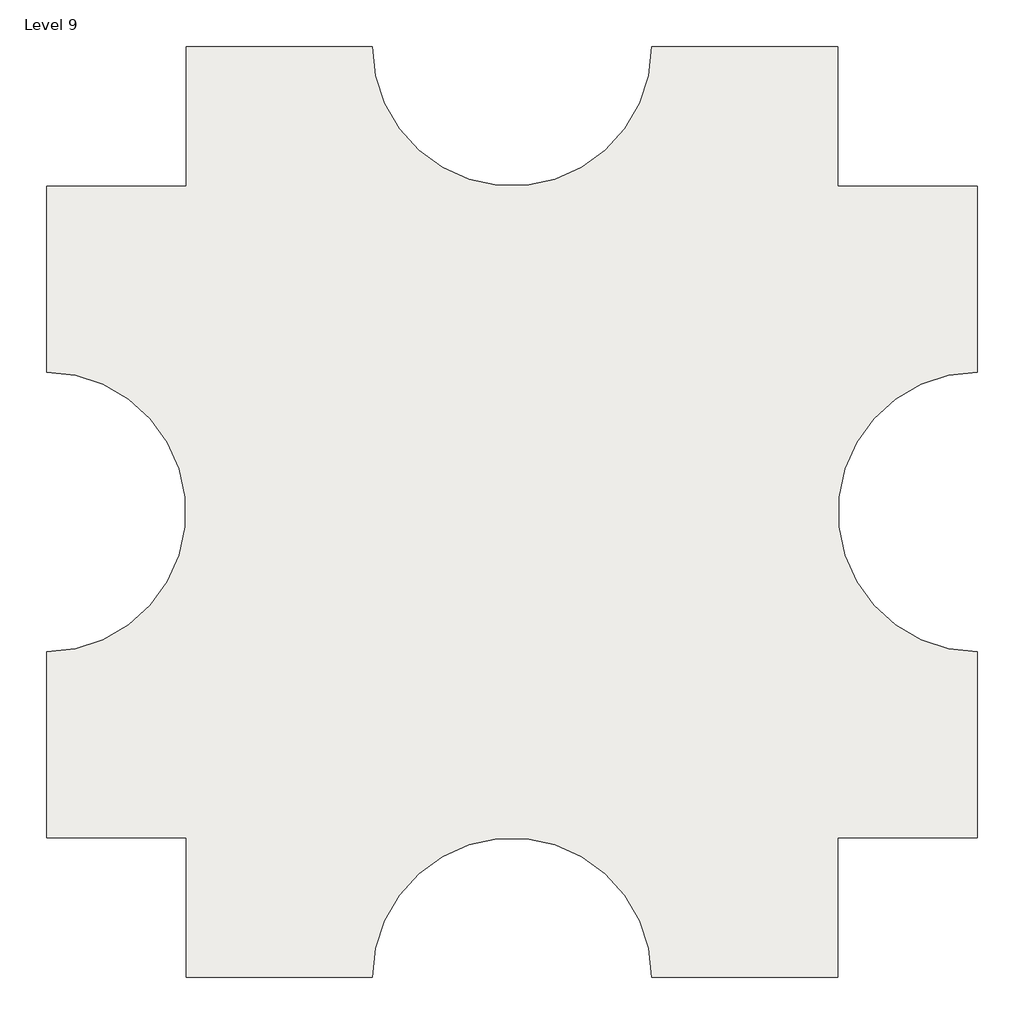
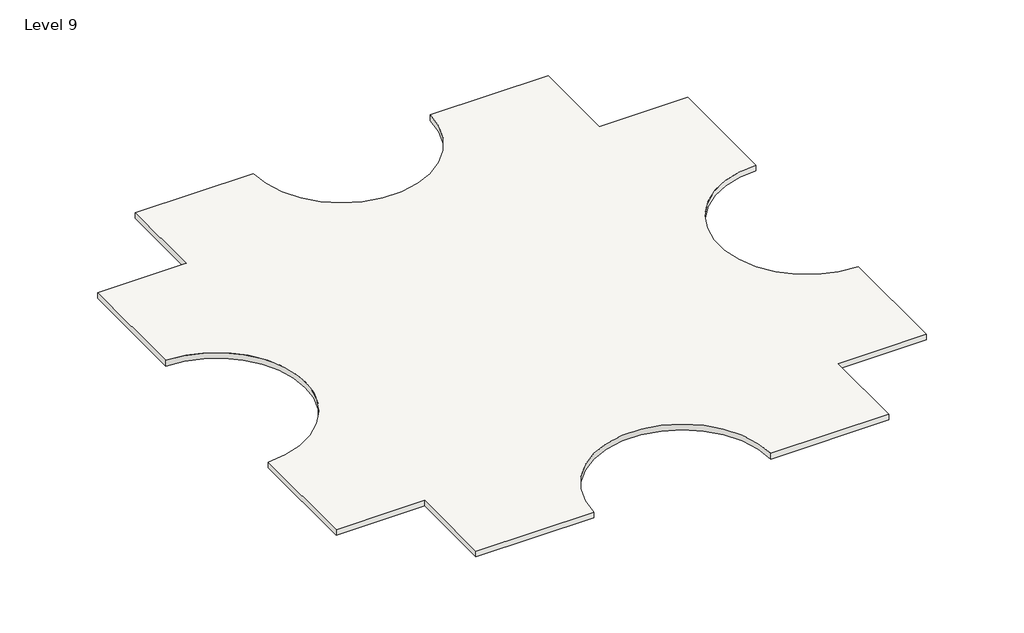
# One storey: 1 slab.
"""IFC4 building model written with IfcOpenShell, lengths in millimetres."""

import ifcopenshell
import ifcopenshell.guid

model = None  # the IFC model being written
_history = None  # IfcOwnerHistory: only IFC2X3 demands one
_inside = {}  # id of a spatial element -> (the spatial element, [elements in it])
_under = {}  # id of a project, library or spatial element -> (it, [spatial elements below it])
_declared = {}  # id of a project -> (the project, [libraries it declares])
_typed = {}  # id of a type object -> (the type object, [elements of that type])
_made_of = {}  # id of a material, layer set ... -> (it, [elements and type objects made of it])


def new_model(schema):
    """Start an empty IFC model of exactly this schema.

    Asked for "IFC4X3", IfcOpenShell would pick the latest addendum, in which some entities
    have other attributes; the version numbers below select the first issue.
    IFC2X3 requires an IfcOwnerHistory on every rooted entity: one is made here for all.
    """
    global model, _history
    if schema == "IFC4X3":
        model = ifcopenshell.file(schema_version=(4, 3, 0, 0))
    else:
        model = ifcopenshell.file(schema=schema)
    _inside.clear()
    _under.clear()
    _declared.clear()
    _typed.clear()
    _made_of.clear()
    _history = None
    if model.schema == "IFC2X3":
        org = make("IfcOrganization", Name="unknown")
        user = make(
            "IfcPersonAndOrganization",
            ThePerson=make("IfcPerson", FamilyName="unknown"),
            TheOrganization=org,
        )
        app = make(
            "IfcApplication",
            ApplicationDeveloper=org,
            Version="unknown",
            ApplicationFullName="unknown",
            ApplicationIdentifier="unknown",
        )
        _history = make(
            "IfcOwnerHistory",
            OwningUser=user,
            OwningApplication=app,
            ChangeAction="ADDED",
            CreationDate=0,
        )
    return model


def make(cls, **values):
    """One entity of the class cls with the attributes given. An attribute that is None is left unset."""
    return model.create_entity(
        cls, **{name: value for name, value in values.items() if value is not None}
    )


def rooted(cls, **values):
    """An entity with a GlobalId (a new one), such as an element, a storey or a relation."""
    return make(cls, GlobalId=ifcopenshell.guid.new(), OwnerHistory=_history, **values)


def si_unit(unit_type, name, prefix=None):
    """IfcSIUnit, for example si_unit("LENGTHUNIT", "METRE", prefix="MILLI")."""
    return make("IfcSIUnit", UnitType=unit_type, Prefix=prefix, Name=name)


def assignment(units):
    """IfcUnitAssignment: the units of a project."""
    return None if units is None else make("IfcUnitAssignment", Units=units)


def point(xyz):
    """IfcCartesianPoint."""
    return None if xyz is None else make("IfcCartesianPoint", Coordinates=xyz)


def direction(xyz):
    """IfcDirection."""
    return None if xyz is None else make("IfcDirection", DirectionRatios=xyz)


def frame(location, z_axis=None, x_axis=None):
    """IfcAxis2Placement3D, a coordinate frame: its origin and axes. An axis left out is left unset."""
    return make(
        "IfcAxis2Placement3D",
        Location=point(location),
        Axis=direction(z_axis),
        RefDirection=direction(x_axis),
    )


def frame_2d(location, x_axis=None):
    """IfcAxis2Placement2D, a coordinate frame in the plane: its origin and x axis."""
    return make(
        "IfcAxis2Placement2D", Location=point(location), RefDirection=direction(x_axis)
    )


def origin():
    """The frame at (0, 0, 0) with its axes left unset."""
    return frame((0.0, 0.0, 0.0))


def place(relative_to, where):
    """IfcLocalPlacement: puts the frame where relative to a parent placement (None: the world)."""
    return make(
        "IfcLocalPlacement", PlacementRelTo=relative_to, RelativePlacement=where
    )


def context(
    kind, dimensions, precision=None, world=None, true_north=None, identifier=None
):
    """IfcGeometricRepresentationContext, for example the 3D "Model" context."""
    return make(
        "IfcGeometricRepresentationContext",
        ContextIdentifier=identifier,
        ContextType=kind,
        CoordinateSpaceDimension=dimensions,
        Precision=precision,
        WorldCoordinateSystem=world,
        TrueNorth=true_north,
    )


def project(units=None, contexts=None):
    """IfcProject with its units and contexts."""
    return rooted(
        "IfcProject",
        Name="project",
        RepresentationContexts=contexts,
        UnitsInContext=assignment(units),
    )


def spatial(cls, under=None, at=None, **own):
    """A site, building, storey or space (cls), placed at a placement, below another one or the project."""
    s = rooted(cls, ObjectPlacement=at, **own)
    if under is not None:
        _under.setdefault(under.id(), (under, []))[1].append(s)
    return s


def polyline(points):
    """IfcPolyline through the points."""
    return make("IfcPolyline", Points=[point(p) for p in points])


def circle_curve(where, radius):
    """IfcCircle in the frame where."""
    return make("IfcCircle", Position=where, Radius=radius)


def trimmed(basis, trim1, trim2, sense, master):
    """IfcTrimmedCurve: the piece of a basis curve between two trims."""
    return make(
        "IfcTrimmedCurve",
        BasisCurve=basis,
        Trim1=trim1,
        Trim2=trim2,
        SenseAgreement=sense,
        MasterRepresentation=master,
    )


def segment(curve, same_sense, transition):
    """IfcCompositeCurveSegment."""
    return make(
        "IfcCompositeCurveSegment",
        Transition=transition,
        SameSense=same_sense,
        ParentCurve=curve,
    )


def composite_curve(segments, self_intersect=None):
    """IfcCompositeCurve: segments joined end to end."""
    return make("IfcCompositeCurve", Segments=segments, SelfIntersect=self_intersect)


def outline(outer, holes=None, kind="AREA"):
    """IfcArbitraryClosedProfileDef: a profile drawn as a closed curve; with holes, ...WithVoids."""
    if holes is None:
        return make("IfcArbitraryClosedProfileDef", ProfileType=kind, OuterCurve=outer)
    return make(
        "IfcArbitraryProfileDefWithVoids",
        ProfileType=kind,
        OuterCurve=outer,
        InnerCurves=holes,
    )


def extrude(swept, where, along, depth):
    """IfcExtrudedAreaSolid: the profile swept, set in the frame where, extruded along a direction by depth."""
    return make(
        "IfcExtrudedAreaSolid",
        SweptArea=swept,
        Position=where,
        ExtrudedDirection=direction(along),
        Depth=depth,
    )


def shape(context_of_items, identifier, shape_type, items):
    """IfcShapeRepresentation: the items that make up one representation, for example the "Body"."""
    return make(
        "IfcShapeRepresentation",
        ContextOfItems=context_of_items,
        RepresentationIdentifier=identifier,
        RepresentationType=shape_type,
        Items=items,
    )


def made_of(thing, what):
    """Note that an element or type object is made of a material, layer set ...; save() writes the relation."""
    if what is not None:
        _made_of.setdefault(what.id(), (what, []))[1].append(thing)
    return thing


def element(
    cls,
    number,
    at=None,
    inside=None,
    cuts=None,
    type_object=None,
    material=None,
    context=None,
    identifier="Body",
    shape_type=None,
    held_by="IfcProductDefinitionShape",
    body=None,
    shapes=None,
    **own,
):
    """One element of the class cls, such as IfcWall. Its Tag is "e" and its number.

    at: its placement. inside: the storey or other place that contains it. cuts: it is an
    opening in that element (IfcRelVoidsElement). A single representation is given by context,
    identifier, shape_type and body (its items); several are given by shapes. held_by: the class
    of the entity that holds the representations. save() writes the other relations.
    """
    e = rooted(cls, Tag="e%d" % number, ObjectPlacement=at, **own)
    if body is not None:
        shapes = [shape(context, identifier, shape_type, body)]
    if shapes is not None:
        e.Representation = make(held_by, Representations=shapes)
    if inside is not None:
        _inside.setdefault(inside.id(), (inside, []))[1].append(e)
    if cuts is not None:
        rooted(
            "IfcRelVoidsElement", RelatingBuildingElement=cuts, RelatedOpeningElement=e
        )
    if type_object is not None:
        _typed.setdefault(type_object.id(), (type_object, []))[1].append(e)
    return made_of(e, material)


def aggregate(whole, parts):
    """IfcRelAggregates: a whole, such as a stair, and the parts it consists of."""
    return rooted("IfcRelAggregates", RelatingObject=whole, RelatedObjects=parts)


def save(model, path):
    """Write the relations noted so far, then the file.

    IfcRelAggregates (storeys below a building ...), IfcRelContainedInSpatialStructure (elements
    in a storey), IfcRelDefinesByType, IfcRelAssociatesMaterial and IfcRelDeclares: one each for
    every whole, place, type object, material and project.
    """
    for whole, parts in _under.values():
        aggregate(whole, parts)
    for where, things in _inside.values():
        rooted(
            "IfcRelContainedInSpatialStructure",
            RelatedElements=things,
            RelatingStructure=where,
        )
    for kind, things in _typed.values():
        rooted("IfcRelDefinesByType", RelatedObjects=things, RelatingType=kind)
    for what, things in _made_of.values():
        rooted("IfcRelAssociatesMaterial", RelatedObjects=things, RelatingMaterial=what)
    for by, libraries in _declared.values():
        rooted("IfcRelDeclares", RelatingContext=by, RelatedDefinitions=libraries)
    model.write(path)


model = new_model("IFC4")

# Units and contexts
model_context = context("Model", 3, world=origin())
ifc_project = project(units=[si_unit("LENGTHUNIT", "METRE", prefix="MILLI")], contexts=[model_context])

# Site, building, storey
site = spatial("IfcSite", under=ifc_project)
building = spatial("IfcBuilding", under=site)
storey = spatial("IfcBuildingStorey", under=building, Name="Level 9", Elevation=24384.0)

# Slab
placement = place(None, origin())
element("IfcSlab", 1, ObjectType="Generic - 12\"", at=placement, inside=storey, context=model_context, shape_type="SweptSolid", body=[
    extrude(outline(composite_curve([segment(polyline([(-7150.3629456, 4479.6634547), (-7150.3629456, 9051.6634547), (-1054.3629456, 9051.6634547)]), True, "CONTINUOUS"), segment(trimmed(circle_curve(frame_2d((3517.6370544, 9051.6634547)), 4572.0), [point((-1054.3629456, 9051.6634547))], [point((8089.6370544, 9051.6634547))], True, "CARTESIAN"), True, "CONTINUOUS"), segment(polyline([(8089.6370544, 9051.6634547), (14185.6370544, 9051.6634547), (14185.6370544, 4479.6634547), (18757.6370544, 4479.6634547), (18757.6370544, -1616.3365453)]), True, "CONTINUOUS"), segment(trimmed(circle_curve(frame_2d((18757.6370544, -6188.3365453)), 4572.0), [point((18757.6370544, -1616.3365453))], [point((18757.6370544, -10760.3365453))], True, "CARTESIAN"), True, "CONTINUOUS"), segment(polyline([(18757.6370544, -10760.3365453), (18757.6370544, -16856.3365453), (14185.6370544, -16856.3365453), (14185.6370544, -21428.3365453), (8089.6370544, -21428.3365453)]), True, "CONTINUOUS"), segment(trimmed(circle_curve(frame_2d((3517.6370544, -21428.3365453)), 4572.0), [point((8089.6370544, -21428.3365453))], [point((-1054.3629456, -21428.3365453))], True, "CARTESIAN"), True, "CONTINUOUS"), segment(polyline([(-1054.3629456, -21428.3365453), (-7150.3629456, -21428.3365453), (-7150.3629456, -16856.3365453), (-11722.3629456, -16856.3365453), (-11722.3629456, -10760.3365453)]), True, "CONTINUOUS"), segment(trimmed(circle_curve(frame_2d((-11722.3629456, -6188.3365453)), 4572.0), [point((-11722.3629456, -10760.3365453))], [point((-11722.3629456, -1616.3365453))], True, "CARTESIAN"), True, "CONTINUOUS"), segment(polyline([(-11722.3629456, -1616.3365453), (-11722.3629456, 4479.6634547), (-7150.3629456, 4479.6634547)]), True, "CONTINUOUS")], self_intersect=False)), frame((0.0, 0.0, 24079.2), z_axis=(0.0, 0.0, 1.0), x_axis=(1.0, 0.0, 0.0)), (0.0, 0.0, 1.0), 304.8),
])

save(model, "model.ifc")
